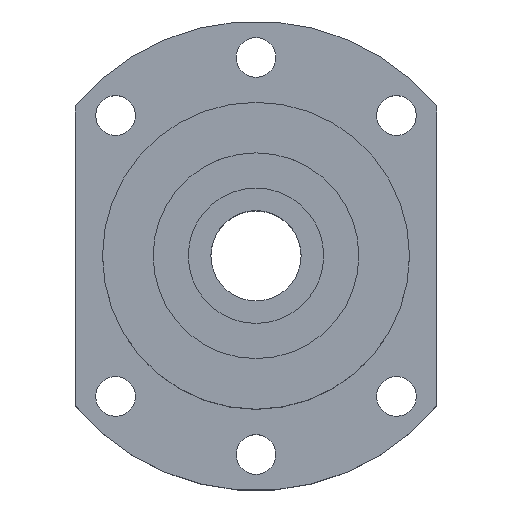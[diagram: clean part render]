
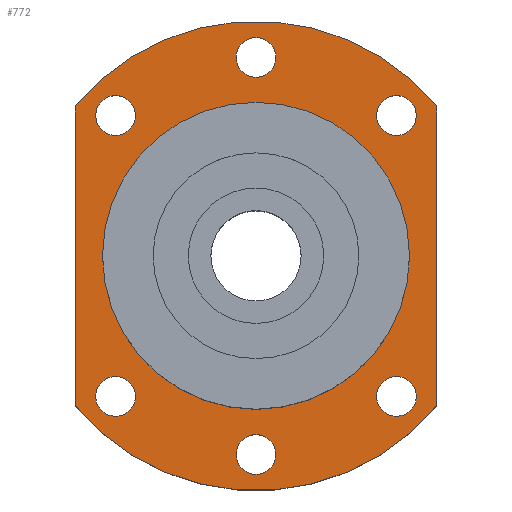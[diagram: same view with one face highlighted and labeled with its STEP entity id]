
A CAD part, top view. The second image highlights one B-rep face of the part: STEP entity #772.
In plain terms, the highlighted planar face has unit normal (0, 0, 1).
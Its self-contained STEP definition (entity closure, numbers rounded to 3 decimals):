
#70=LINE($,#1339,#102);
#71=LINE($,#1342,#103);
#102=VECTOR($,#1123,83.066);
#103=VECTOR($,#1126,83.066);
#153=FACE_BOUND($,#297,.T.);
#154=FACE_BOUND($,#298,.T.);
#155=FACE_BOUND($,#299,.T.);
#156=FACE_BOUND($,#300,.T.);
#157=FACE_BOUND($,#301,.T.);
#158=FACE_BOUND($,#302,.T.);
#159=FACE_BOUND($,#303,.T.);
#160=FACE_BOUND($,#304,.T.);
#297=EDGE_LOOP($,(#686));
#298=EDGE_LOOP($,(#687));
#299=EDGE_LOOP($,(#688));
#300=EDGE_LOOP($,(#689));
#301=EDGE_LOOP($,(#690));
#302=EDGE_LOOP($,(#691));
#303=EDGE_LOOP($,(#692));
#304=EDGE_LOOP($,(#693,#694,#695,#696));
#333=CIRCLE($,#832,5.5);
#337=CIRCLE($,#839,5.5);
#341=CIRCLE($,#846,5.5);
#345=CIRCLE($,#853,5.5);
#349=CIRCLE($,#860,5.5);
#353=CIRCLE($,#867,5.5);
#355=CIRCLE($,#870,42.5);
#359=CIRCLE($,#878,65.);
#360=CIRCLE($,#882,65.);
#401=VERTEX_POINT($,#1255);
#405=VERTEX_POINT($,#1266);
#409=VERTEX_POINT($,#1277);
#413=VERTEX_POINT($,#1288);
#417=VERTEX_POINT($,#1299);
#421=VERTEX_POINT($,#1310);
#423=VERTEX_POINT($,#1315);
#429=VERTEX_POINT($,#1331);
#430=VERTEX_POINT($,#1333);
#431=VERTEX_POINT($,#1337);
#432=VERTEX_POINT($,#1341);
#485=EDGE_CURVE($,#401,#401,#333,.T.);
#489=EDGE_CURVE($,#405,#405,#337,.T.);
#493=EDGE_CURVE($,#409,#409,#341,.T.);
#497=EDGE_CURVE($,#413,#413,#345,.T.);
#501=EDGE_CURVE($,#417,#417,#349,.T.);
#505=EDGE_CURVE($,#421,#421,#353,.T.);
#507=EDGE_CURVE($,#423,#423,#355,.T.);
#514=EDGE_CURVE($,#430,#429,#359,.T.);
#517=EDGE_CURVE($,#429,#431,#70,.T.);
#518=EDGE_CURVE($,#432,#430,#71,.T.);
#520=EDGE_CURVE($,#431,#432,#360,.T.);
#686=ORIENTED_EDGE($,*,*,#485,.T.);
#687=ORIENTED_EDGE($,*,*,#489,.T.);
#688=ORIENTED_EDGE($,*,*,#493,.T.);
#689=ORIENTED_EDGE($,*,*,#497,.T.);
#690=ORIENTED_EDGE($,*,*,#501,.T.);
#691=ORIENTED_EDGE($,*,*,#505,.T.);
#692=ORIENTED_EDGE($,*,*,#507,.T.);
#693=ORIENTED_EDGE($,*,*,#517,.T.);
#694=ORIENTED_EDGE($,*,*,#520,.T.);
#695=ORIENTED_EDGE($,*,*,#518,.T.);
#696=ORIENTED_EDGE($,*,*,#514,.T.);
#720=PLANE($,#883);
#772=ADVANCED_FACE($,(#153,#154,#155,#156,#157,#158,#159,#160),#720,.T.);
#832=AXIS2_PLACEMENT_3D($,#1256,#1022,#1023);
#839=AXIS2_PLACEMENT_3D($,#1267,#1036,#1037);
#846=AXIS2_PLACEMENT_3D($,#1278,#1050,#1051);
#853=AXIS2_PLACEMENT_3D($,#1289,#1064,#1065);
#860=AXIS2_PLACEMENT_3D($,#1300,#1078,#1079);
#867=AXIS2_PLACEMENT_3D($,#1311,#1092,#1093);
#870=AXIS2_PLACEMENT_3D($,#1316,#1098,#1099);
#878=AXIS2_PLACEMENT_3D($,#1334,#1117,#1118);
#882=AXIS2_PLACEMENT_3D($,#1345,#1130,#1131);
#883=AXIS2_PLACEMENT_3D($,#1346,#1132,#1133);
#1022=DIRECTION('center_axis',(0.,0.,-1.));
#1023=DIRECTION('ref_axis',(-1.,0.,0.));
#1036=DIRECTION('center_axis',(0.,0.,-1.));
#1037=DIRECTION('ref_axis',(-1.,0.,0.));
#1050=DIRECTION('center_axis',(0.,0.,-1.));
#1051=DIRECTION('ref_axis',(-1.,0.,0.));
#1064=DIRECTION('center_axis',(0.,0.,-1.));
#1065=DIRECTION('ref_axis',(-1.,0.,0.));
#1078=DIRECTION('center_axis',(0.,0.,-1.));
#1079=DIRECTION('ref_axis',(-1.,0.,0.));
#1092=DIRECTION('center_axis',(0.,0.,-1.));
#1093=DIRECTION('ref_axis',(-1.,0.,0.));
#1098=DIRECTION('center_axis',(0.,0.,-1.));
#1099=DIRECTION('ref_axis',(-1.,0.,0.));
#1117=DIRECTION('center_axis',(0.,0.,1.));
#1118=DIRECTION('ref_axis',(0.769,0.639,0.));
#1123=DIRECTION($,(0.,-1.,0.));
#1126=DIRECTION($,(0.,1.,0.));
#1130=DIRECTION('center_axis',(0.,0.,1.));
#1131=DIRECTION('ref_axis',(-0.769,-0.639,0.));
#1132=DIRECTION('center_axis',(0.,0.,1.));
#1133=DIRECTION('ref_axis',(1.,0.,0.));
#1255=CARTESIAN_POINT('',(5.5,-55.,19.));
#1256=CARTESIAN_POINT('Origin',(0.,-55.,19.));
#1266=CARTESIAN_POINT('',(-33.391,38.891,19.));
#1267=CARTESIAN_POINT('Origin',(-38.891,38.891,19.));
#1277=CARTESIAN_POINT('',(44.391,38.891,19.));
#1278=CARTESIAN_POINT('Origin',(38.891,38.891,19.));
#1288=CARTESIAN_POINT('',(5.5,55.,19.));
#1289=CARTESIAN_POINT('Origin',(0.,55.,19.));
#1299=CARTESIAN_POINT('',(44.391,-38.891,19.));
#1300=CARTESIAN_POINT('Origin',(38.891,-38.891,19.));
#1310=CARTESIAN_POINT('',(-33.391,-38.891,19.));
#1311=CARTESIAN_POINT('Origin',(-38.891,-38.891,19.));
#1315=CARTESIAN_POINT('',(42.5,0.,19.));
#1316=CARTESIAN_POINT('Origin',(0.,0.,19.));
#1331=CARTESIAN_POINT('',(-50.,41.533,19.));
#1333=CARTESIAN_POINT('',(50.,41.533,19.));
#1334=CARTESIAN_POINT('Origin',(0.,0.,19.));
#1337=CARTESIAN_POINT('',(-50.,-41.533,19.));
#1339=CARTESIAN_POINT($,(-50.,41.533,19.));
#1341=CARTESIAN_POINT('',(50.,-41.533,19.));
#1342=CARTESIAN_POINT($,(50.,-41.533,19.));
#1345=CARTESIAN_POINT('Origin',(0.,0.,19.));
#1346=CARTESIAN_POINT('Origin',(0.,0.,
19.));
